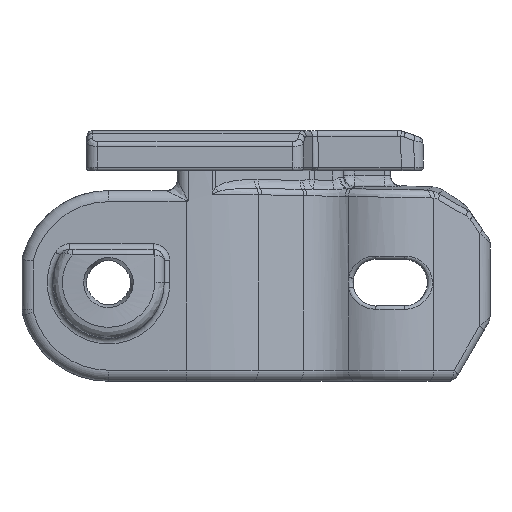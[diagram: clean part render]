
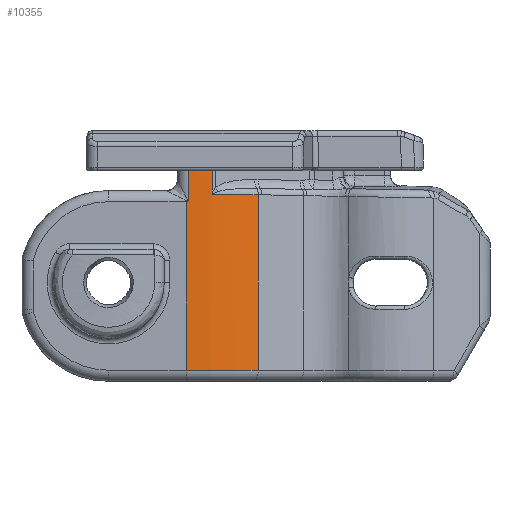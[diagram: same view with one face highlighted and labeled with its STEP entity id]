
A CAD part, front view. The second image highlights one B-rep face of the part: STEP entity #10355.
In plain terms, the highlighted cylindrical face has radius 13 mm (diameter 26 mm), a partial arc.
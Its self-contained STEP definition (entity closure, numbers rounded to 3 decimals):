
#246=CYLINDRICAL_SURFACE('',#11288,13.);
#535=CIRCLE('',#11289,13.);
#536=CIRCLE('',#11290,13.);
#1258=B_SPLINE_CURVE_WITH_KNOTS('',3,(#18644,#18645,#18646,#18647,#18648,
#18649,#18650,#18651,#18652,#18653),.UNSPECIFIED.,.F.,.F.,(4,2,2,2,4),(0.,
0.,0.002,0.004,0.007),
 .UNSPECIFIED.);
#1294=B_SPLINE_CURVE_WITH_KNOTS('',3,(#19599,#19600,#19601,#19602),
 .UNSPECIFIED.,.F.,.F.,(4,4),(-0.411,0.011),
 .UNSPECIFIED.);
#1321=B_SPLINE_CURVE_WITH_KNOTS('',3,(#20257,#20258,#20259,#20260),
 .UNSPECIFIED.,.F.,.F.,(4,4),(1.47,1.487),
 .UNSPECIFIED.);
#1840=FACE_OUTER_BOUND('',#2492,.T.);
#2492=EDGE_LOOP('',(#8565,#8566,#8567,#8568,#8569,#8570,#8571,#8572,#8573));
#3163=LINE('',#18680,#3819);
#3200=LINE('',#19786,#3856);
#3214=LINE('',#20255,#3870);
#3215=LINE('',#20263,#3871);
#3819=VECTOR('',#13266,1.);
#3856=VECTOR('',#13483,10.);
#3870=VECTOR('',#13547,10.);
#3871=VECTOR('',#13552,10.);
#4564=VERTEX_POINT('',#18642);
#4565=VERTEX_POINT('',#18643);
#4566=VERTEX_POINT('',#18679);
#4571=VERTEX_POINT('',#18715);
#4640=VERTEX_POINT('',#19598);
#4653=VERTEX_POINT('',#19783);
#4654=VERTEX_POINT('',#19785);
#4688=VERTEX_POINT('',#20254);
#4689=VERTEX_POINT('',#20261);
#5840=EDGE_CURVE('',#4564,#4565,#1258,.T.);
#5843=EDGE_CURVE('',#4566,#4564,#3163,.T.);
#5960=EDGE_CURVE('',#4640,#4571,#1294,.T.);
#5985=EDGE_CURVE('',#4654,#4653,#3200,.T.);
#6037=EDGE_CURVE('',#4688,#4571,#3214,.T.);
#6038=EDGE_CURVE('',#4688,#4566,#535,.T.);
#6039=EDGE_CURVE('',#4565,#4654,#1321,.T.);
#6040=EDGE_CURVE('',#4653,#4689,#536,.T.);
#6041=EDGE_CURVE('',#4640,#4689,#3215,.T.);
#8565=ORIENTED_EDGE('',*,*,#5960,.T.);
#8566=ORIENTED_EDGE('',*,*,#6037,.F.);
#8567=ORIENTED_EDGE('',*,*,#6038,.T.);
#8568=ORIENTED_EDGE('',*,*,#5843,.T.);
#8569=ORIENTED_EDGE('',*,*,#5840,.T.);
#8570=ORIENTED_EDGE('',*,*,#6039,.T.);
#8571=ORIENTED_EDGE('',*,*,#5985,.T.);
#8572=ORIENTED_EDGE('',*,*,#6040,.T.);
#8573=ORIENTED_EDGE('',*,*,#6041,.F.);
#10355=ADVANCED_FACE('',(#1840),#246,.T.);
#11288=AXIS2_PLACEMENT_3D('',#20253,#13545,#13546);
#11289=AXIS2_PLACEMENT_3D('',#20256,#13548,#13549);
#11290=AXIS2_PLACEMENT_3D('',#20262,#13550,#13551);
#13266=DIRECTION('',(0.,0.,-1.));
#13483=DIRECTION('',(0.,0.,-1.));
#13545=DIRECTION('center_axis',(0.,0.,1.));
#13546=DIRECTION('ref_axis',(0.5,-0.866,0.));
#13547=DIRECTION('',(0.,0.,-1.));
#13548=DIRECTION('center_axis',(0.,0.,-1.));
#13549=DIRECTION('ref_axis',(0.5,-0.866,0.));
#13550=DIRECTION('center_axis',(0.,0.,1.));
#13551=DIRECTION('ref_axis',(0.259,-0.966,0.));
#13552=DIRECTION('',(0.,0.,-1.));
#18642=CARTESIAN_POINT('',(-5.483,-10.398,30.388));
#18643=CARTESIAN_POINT('',(-5.538,-10.399,30.345));
#18644=CARTESIAN_POINT('Ctrl Pts',(-5.483,-10.398,30.388));
#18645=CARTESIAN_POINT('Ctrl Pts',(-5.484,-10.398,
30.387));
#18646=CARTESIAN_POINT('Ctrl Pts',(-5.484,-10.398,30.387));
#18647=CARTESIAN_POINT('Ctrl Pts',(-5.488,-10.398,
30.38));
#18648=CARTESIAN_POINT('Ctrl Pts',(-5.492,-10.398,
30.373));
#18649=CARTESIAN_POINT('Ctrl Pts',(-5.502,-10.399,
30.363));
#18650=CARTESIAN_POINT('Ctrl Pts',(-5.507,-10.399,
30.359));
#18651=CARTESIAN_POINT('Ctrl Pts',(-5.521,-10.399,
30.35));
#18652=CARTESIAN_POINT('Ctrl Pts',(-5.529,-10.399,
30.347));
#18653=CARTESIAN_POINT('Ctrl Pts',(-5.538,-10.399,
30.345));
#18679=CARTESIAN_POINT('',(-5.483,-10.398,33.1));
#18680=CARTESIAN_POINT('',(-5.483,-10.398,33.1));
#18715=CARTESIAN_POINT('',(-3.367,-10.189,30.985));
#19598=CARTESIAN_POINT('',(0.801,-8.658,30.921));
#19599=CARTESIAN_POINT('Ctrl Pts',(0.801,-8.658,
30.921));
#19600=CARTESIAN_POINT('Ctrl Pts',(-0.487,-9.402,
30.939));
#19601=CARTESIAN_POINT('Ctrl Pts',(-1.903,-9.922,
30.962));
#19602=CARTESIAN_POINT('Ctrl Pts',(-3.367,-10.189,
30.985));
#19783=CARTESIAN_POINT('',(-5.699,-10.4,15.1));
#19785=CARTESIAN_POINT('',(-5.699,-10.4,30.3));
#19786=CARTESIAN_POINT('',(-5.699,-10.4,33.1));
#20253=CARTESIAN_POINT('Origin',(-5.699,2.6,33.1));
#20254=CARTESIAN_POINT('',(-3.367,-10.189,33.1));
#20255=CARTESIAN_POINT('',(-3.367,-10.189,33.1));
#20256=CARTESIAN_POINT('Origin',(-5.699,2.6,33.1));
#20257=CARTESIAN_POINT('Ctrl Pts',(-5.538,-10.399,
30.345));
#20258=CARTESIAN_POINT('Ctrl Pts',(-5.592,-10.4,
30.33));
#20259=CARTESIAN_POINT('Ctrl Pts',(-5.645,-10.4,30.315));
#20260=CARTESIAN_POINT('Ctrl Pts',(-5.699,-10.4,30.3));
#20261=CARTESIAN_POINT('',(0.801,-8.658,15.1));
#20262=CARTESIAN_POINT('Origin',(-5.699,2.6,15.1));
#20263=CARTESIAN_POINT('',(0.801,-8.658,33.1));
